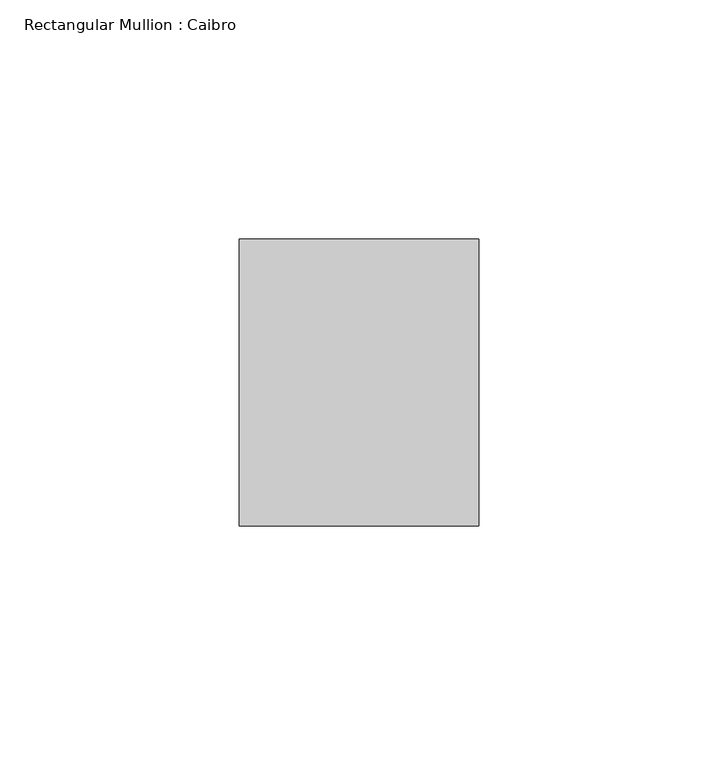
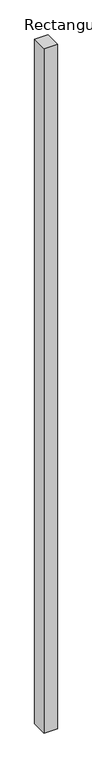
"""IFC4 building model written with IfcOpenShell, lengths in millimetres: member geometry, Rectangular Mullion : Caibro."""

from ifc_helpers import new_model, si_unit, frame, origin, place, context, project, spatial, polyline, outline, extrude, source, transform, mapped, element, save


def rectangular_mullion_caibro_dc4aa32d(model_context):
    return source(origin(), model_context, "Body", "SweptSolid", [
        extrude(outline(polyline([(-50.0, -60.0), (-50.0, 0.0), (0.0, 0.0), (0.0, -60.0), (-50.0, -60.0)])), frame((0.0, 0.0, -2710.5804586), z_axis=(0.0, 0.0, 1.0), x_axis=(1.0, 0.0, 0.0)), (0.0, 0.0, 1.0), 2710.5804586),
    ])


if __name__ == "__main__":
    model = new_model("IFC4")
    model_context = context("Model", 3, world=origin())
    ifc_project = project(units=[si_unit("LENGTHUNIT", "METRE", prefix="MILLI")], contexts=[model_context])
    site = spatial("IfcSite", under=ifc_project)
    building = spatial("IfcBuilding", under=site)
    placement = place(None, origin())
    rectangular_mullion_caibro_shape = rectangular_mullion_caibro_dc4aa32d(model_context)
    element("IfcMember", 1, ObjectType="Rectangular Mullion : Caibro", at=placement, inside=building, context=model_context, shape_type="MappedRepresentation", body=[
        mapped(rectangular_mullion_caibro_shape, transform((0.0, 0.0, 0.0), x_axis=(1.0, 0.0, 0.0), y_axis=(0.0, 1.0, 0.0), z_axis=(0.0, 0.0, 1.0))),
    ])
    save(model, "model.ifc")
